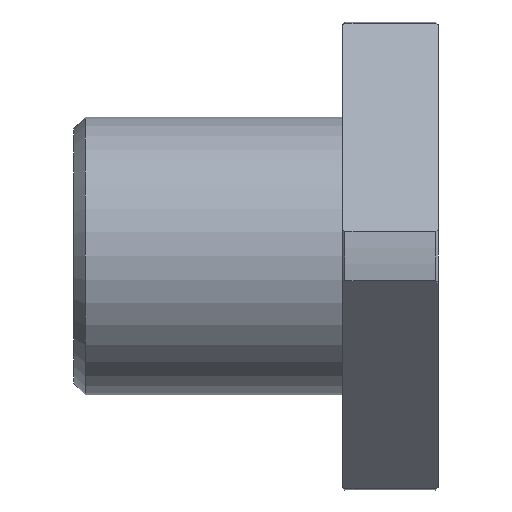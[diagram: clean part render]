
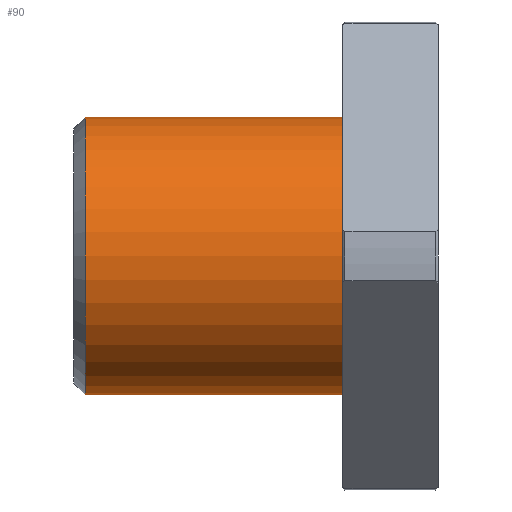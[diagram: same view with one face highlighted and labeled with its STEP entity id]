
A CAD part, front view. The second image highlights one B-rep face of the part: STEP entity #90.
In plain terms, the highlighted cylindrical face has radius 16 mm (diameter 32 mm), a full revolution.
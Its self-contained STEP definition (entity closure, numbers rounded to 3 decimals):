
#90=ADVANCED_FACE('',(#159,#160),#161,.T.);
#159=FACE_OUTER_BOUND('',#253,.T.);
#160=FACE_OUTER_BOUND('',#254,.T.);
#161=CYLINDRICAL_SURFACE('',#255,16.0);
#253=EDGE_LOOP('',(#407));
#254=EDGE_LOOP('',(#408));
#255=AXIS2_PLACEMENT_3D('',#409,#410,#411);
#407=ORIENTED_EDGE('',*,*,#586,.F.);
#408=ORIENTED_EDGE('',*,*,#542,.T.);
#409=CARTESIAN_POINT('',(-42.0,0.0,0.0));
#410=DIRECTION('',(1.0,-0.0,-0.0));
#411=DIRECTION('',(0.0,0.0,1.0));
#542=EDGE_CURVE('',#615,#615,#616,.T.);
#586=EDGE_CURVE('',#698,#698,#699,.T.);
#615=VERTEX_POINT('',#737);
#616=CIRCLE('',#738,16.0);
#698=VERTEX_POINT('',#857);
#699=CIRCLE('',#858,16.0);
#737=CARTESIAN_POINT('',(-11.0,0.0,16.0));
#738=AXIS2_PLACEMENT_3D('',#927,#928,#929);
#857=CARTESIAN_POINT('',(-40.7,0.0,16.0));
#858=AXIS2_PLACEMENT_3D('',#1012,#1013,#1014);
#927=CARTESIAN_POINT('',(-11.0,0.0,0.0));
#928=DIRECTION('',(-1.0,0.0,0.0));
#929=DIRECTION('',(0.0,0.0,1.0));
#1012=CARTESIAN_POINT('',(-40.7,0.0,0.0));
#1013=DIRECTION('',(-1.0,0.0,0.0));
#1014=DIRECTION('',(0.0,0.0,1.0));
